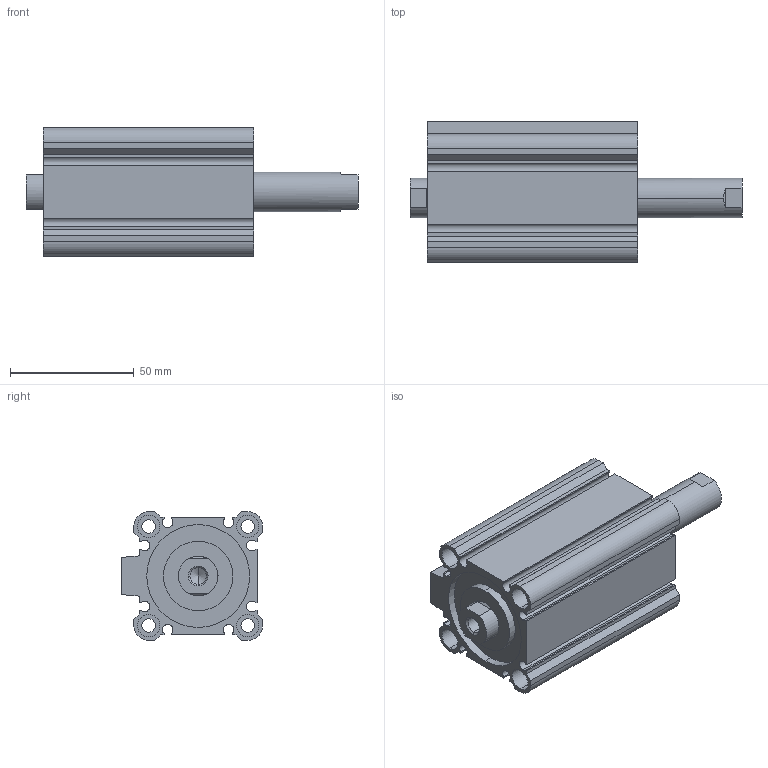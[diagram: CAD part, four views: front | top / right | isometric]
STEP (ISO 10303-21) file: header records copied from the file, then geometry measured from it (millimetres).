
FILE_DESCRIPTION (( 'STEP AP203' ), '1' );
FILE_NAME ('CCMB40-35F-P.STEP', '2020-08-05T11:24:34', ( '' ), ( '' ), 'SwSTEP 2.0', 'SolidWorks 2019', '' );
FILE_SCHEMA (( 'CONFIG_CONTROL_DESIGN' ));
Length unit declared in the file: millimetre
Products named in the file (1): CCMB40-35F-P
Bounding box: 134 x 57 x 52 mm (x, y, z)
Volume: 158107.3 mm3; surface area: 59867.6 mm2
Topology: 2 solids, 2 shells, 164 faces, 414 edges, 270 vertices
Faces by surface type: plane 78, cylinder 74, cone 12
Entity records: 5025 total; most frequent: DIRECTION 888, CARTESIAN_POINT 869, ORIENTED_EDGE 820, EDGE_CURVE 410, AXIS2_PLACEMENT_3D 321, VERTEX_POINT 270, VECTOR 246, LINE 246
